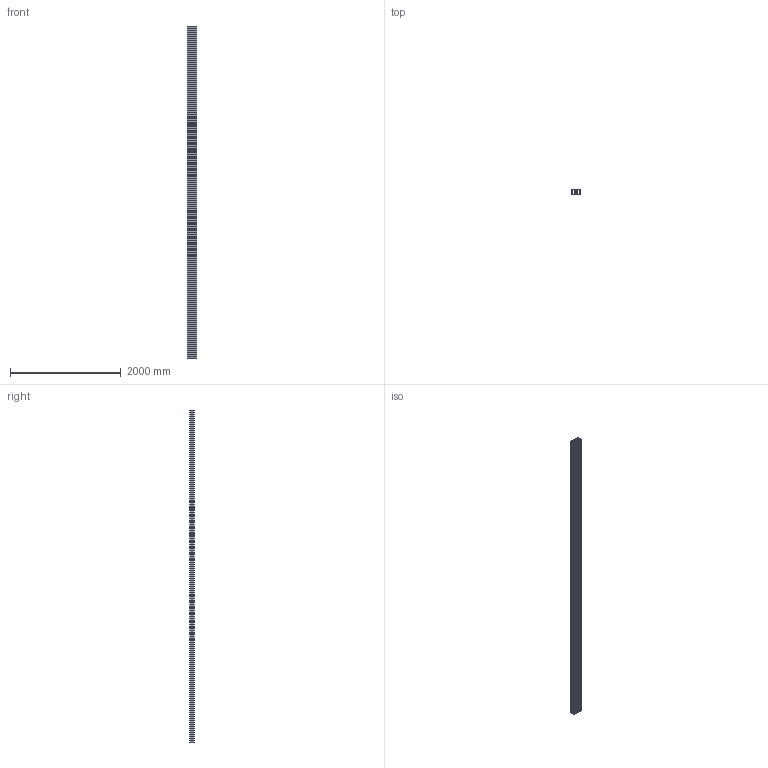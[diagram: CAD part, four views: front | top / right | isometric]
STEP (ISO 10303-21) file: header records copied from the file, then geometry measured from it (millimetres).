
FILE_DESCRIPTION (( 'STEP AP214' ), '1' );
FILE_NAME ('90x180 Slot 10.STEP', '2017-08-10T00:03:27', ( 'Ahmed' ), ( '' ), 'SwSTEP 2.0', 'SolidWorks 2016', '' );
FILE_SCHEMA (( 'AUTOMOTIVE_DESIGN' ));
Length unit declared in the file: millimetre
Products named in the file (2): 90x180 Slot 10
Bounding box: 180 x 90 x 6000 mm (x, y, z)
Volume: 22346605 mm3; surface area: 15684867.8 mm2
Topology: 1 solids, 1 shells, 1114 faces, 3315 edges, 2210 vertices
Faces by surface type: plane 732, cylinder 356, bspline 26
Entity records: 39176 total; most frequent: CARTESIAN_POINT 8619, ORIENTED_EDGE 6630, DIRECTION 6155, EDGE_CURVE 3315, LINE 2551, VECTOR 2551, VERTEX_POINT 2210, AXIS2_PLACEMENT_3D 1802
